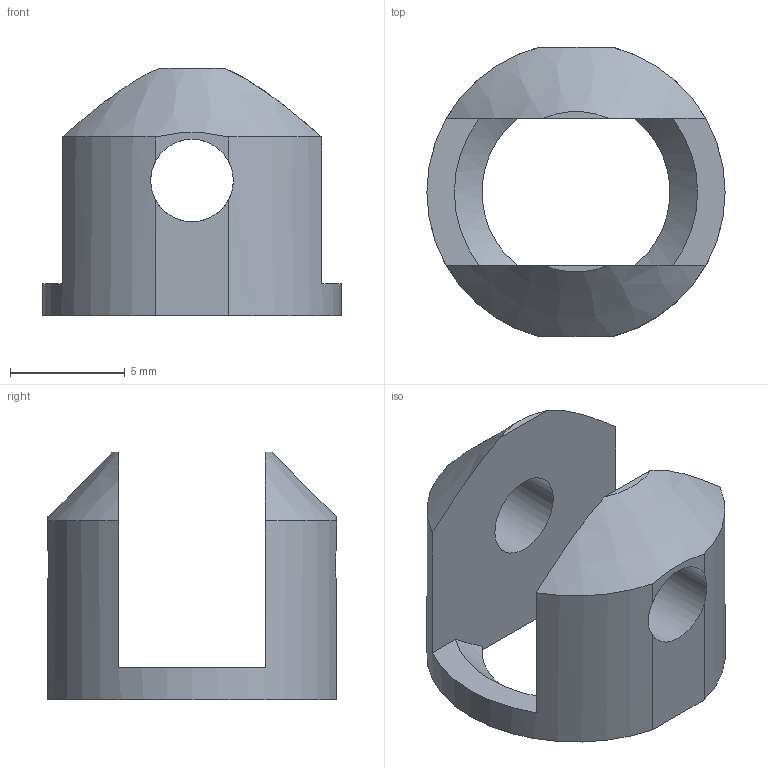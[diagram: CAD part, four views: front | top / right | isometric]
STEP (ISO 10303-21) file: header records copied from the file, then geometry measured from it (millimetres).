
FILE_DESCRIPTION(/* description */ (''),/* implementation_level */ '2;1');
FILE_NAME(/* name */ '3-29-4 Shock bottom.step',/* time_stamp */ '2025-05-10T22:05:51+02:00',/* author */ (''),/* organization */ (''),/* preprocessor_version */ 'ST-DEVELOPER v20.1',/* originating_system */ 'Autodesk Translation Framework v14.4.0.0',/* authorisation */ '');
FILE_SCHEMA (('AUTOMOTIVE_DESIGN { 1 0 10303 214 3 1 1 }'));
Length unit declared in the file: millimetre
Products named in the file (1): 3-29-4 Shock bottom
Bounding box: 13 x 12.6 x 10.8 mm (x, y, z)
Volume: 445.4 mm3; surface area: 672.6 mm2
Topology: 1 solids, 1 shells, 21 faces, 66 edges, 44 vertices
Faces by surface type: plane 11, cylinder 6, cone 4
Full cylindrical faces by diameter (mm): 3.6 x2
Entity records: 816 total; most frequent: CARTESIAN_POINT 190, ORIENTED_EDGE 132, DIRECTION 120, EDGE_CURVE 66, AXIS2_PLACEMENT_3D 46, VERTEX_POINT 44, LINE 28, VECTOR 28
